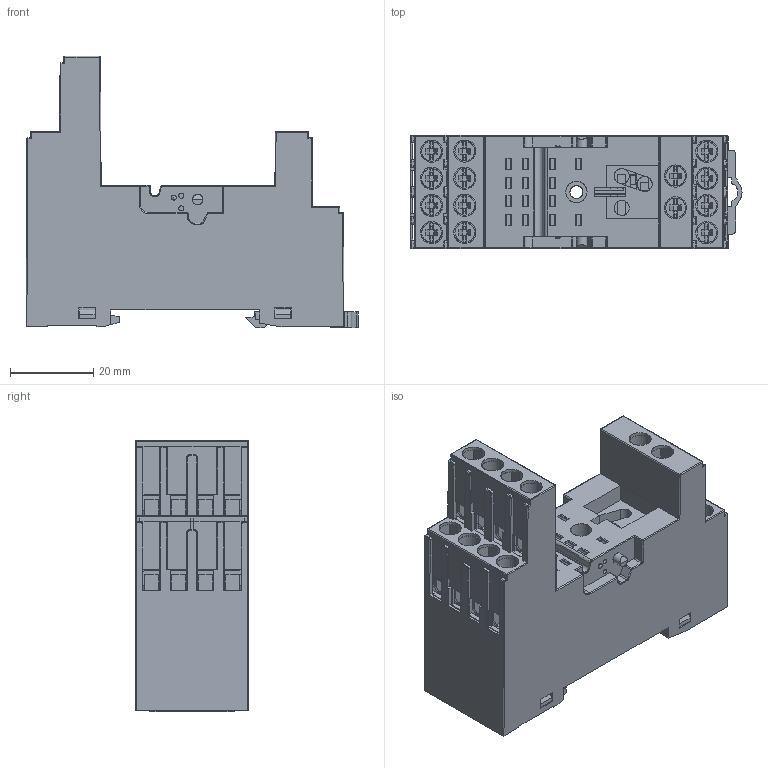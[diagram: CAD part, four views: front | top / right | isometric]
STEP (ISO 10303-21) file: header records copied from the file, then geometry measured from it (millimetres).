
FILE_DESCRIPTION(('STEP AP214'),'2;1');
FILE_NAME('zoccolo 94843_catalogo.stp','2011-01-21T08:20:06',(''),(''),'2007.1.106','THINKDESIGN','');
FILE_SCHEMA(('AUTOMOTIVE_DESIGN'));
Products named in the file (1): None
Bounding box: 79.56 x 27 x 65.05 mm (x, y, z)
Surface area: 33660.1 mm2 (no closed solid volume)
Topology: 0 solids, 0 shells, 1251 faces, 7265 edges, 7204 vertices
Faces by surface type: plane 835, cylinder 290, bspline 126
Full cylindrical faces by diameter (mm): 1.2 x6, 2.5 x2, 3.1 x1, 3.6 x3, 4.6 x1, 4.7 x14, 5.1 x1, 5.3 x14, 5.4 x1
Entity records: 76753 total; most frequent: CARTESIAN_POINT 25817, DIRECTION 8749, COMPOSITE_CURVE_SEGMENT 7239, TRIMMED_CURVE 5954, VECTOR 5509, LINE 5509, AXIS2_PLACEMENT_3D 1620, OUTER_BOUNDARY_CURVE 1251
